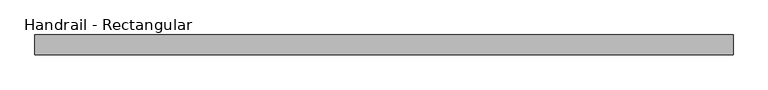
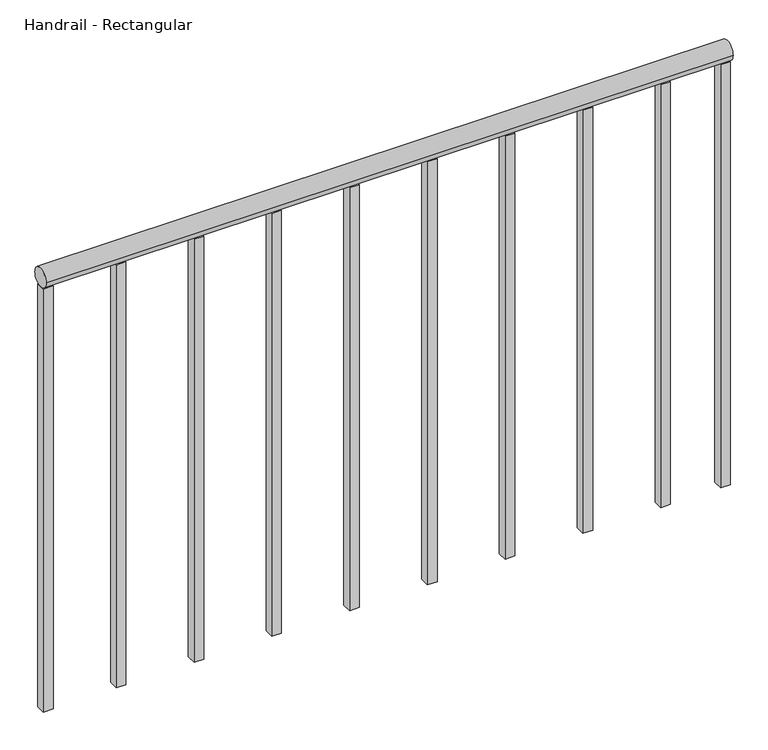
"""IFC4 building model written with IfcOpenShell, lengths in millimetres: railing geometry, Handrail - Rectangular."""

from ifc_helpers import new_model, si_unit, point, frame, frame_2d, origin, place, context, project, spatial, polyline, circle_curve, trimmed, segment, composite_curve, outline, extrude, source, transform, mapped, element, save


def handrail_rectangular_a4098ada(model_context):
    return source(origin(), model_context, "Body", "SweptSolid", [
        extrude(outline(composite_curve([segment(trimmed(circle_curve(frame_2d((-35553.1683133, 3943.35)), 19.05), [point((-35572.2183133, 3943.35))], [point((-35534.1183133, 3943.35))], False, "CARTESIAN"), True, "CONTINUOUS"), segment(trimmed(circle_curve(frame_2d((-35553.1683133, 3943.35)), 19.05), [point((-35534.1183133, 3943.35))], [point((-35572.2183133, 3943.35))], False, "CARTESIAN"), True, "CONTINUOUS")], self_intersect=False)), frame((-5665.7589563, 0.0, 0.0), z_axis=(1.0, 0.0, 0.0), x_axis=(0.0, 1.0, 0.0)), (0.0, 0.0, 1.0), 1346.2),
        extrude(outline(polyline([(-4456.0839563, -35543.6433133), (-4437.0339563, -35543.6433133), (-4437.0339563, -35562.6933133), (-4456.0839563, -35562.6933133), (-4456.0839563, -35543.6433133)])), frame((0.0, 0.0, 3048.0), z_axis=(0.0, 0.0, 1.0), x_axis=(1.0, 0.0, 0.0)), (0.0, 0.0, 1.0), 876.3),
        extrude(outline(polyline([(-4608.4839563, -35543.6433133), (-4589.4339563, -35543.6433133), (-4589.4339563, -35562.6933133), (-4608.4839563, -35562.6933133), (-4608.4839563, -35543.6433133)])), frame((0.0, 0.0, 3048.0), z_axis=(0.0, 0.0, 1.0), x_axis=(1.0, 0.0, 0.0)), (0.0, 0.0, 1.0), 876.3),
        extrude(outline(polyline([(-4760.8839563, -35543.6433133), (-4741.8339563, -35543.6433133), (-4741.8339563, -35562.6933133), (-4760.8839563, -35562.6933133), (-4760.8839563, -35543.6433133)])), frame((0.0, 0.0, 3048.0), z_axis=(0.0, 0.0, 1.0), x_axis=(1.0, 0.0, 0.0)), (0.0, 0.0, 1.0), 876.3),
        extrude(outline(polyline([(-4913.2839563, -35543.6433133), (-4894.2339563, -35543.6433133), (-4894.2339563, -35562.6933133), (-4913.2839563, -35562.6933133), (-4913.2839563, -35543.6433133)])), frame((0.0, 0.0, 3048.0), z_axis=(0.0, 0.0, 1.0), x_axis=(1.0, 0.0, 0.0)), (0.0, 0.0, 1.0), 876.3),
        extrude(outline(polyline([(-5065.6839563, -35543.6433133), (-5046.6339563, -35543.6433133), (-5046.6339563, -35562.6933133), (-5065.6839563, -35562.6933133), (-5065.6839563, -35543.6433133)])), frame((0.0, 0.0, 3048.0), z_axis=(0.0, 0.0, 1.0), x_axis=(1.0, 0.0, 0.0)), (0.0, 0.0, 1.0), 876.3),
        extrude(outline(polyline([(-5218.0839563, -35543.6433133), (-5199.0339563, -35543.6433133), (-5199.0339563, -35562.6933133), (-5218.0839563, -35562.6933133), (-5218.0839563, -35543.6433133)])), frame((0.0, 0.0, 3048.0), z_axis=(0.0, 0.0, 1.0), x_axis=(1.0, 0.0, 0.0)), (0.0, 0.0, 1.0), 876.3),
        extrude(outline(polyline([(-5370.4839563, -35543.6433133), (-5351.4339563, -35543.6433133), (-5351.4339563, -35562.6933133), (-5370.4839563, -35562.6933133), (-5370.4839563, -35543.6433133)])), frame((0.0, 0.0, 3048.0), z_axis=(0.0, 0.0, 1.0), x_axis=(1.0, 0.0, 0.0)), (0.0, 0.0, 1.0), 876.3),
        extrude(outline(polyline([(-5522.8839563, -35543.6433133), (-5503.8339563, -35543.6433133), (-5503.8339563, -35562.6933133), (-5522.8839563, -35562.6933133), (-5522.8839563, -35543.6433133)])), frame((0.0, 0.0, 3048.0), z_axis=(0.0, 0.0, 1.0), x_axis=(1.0, 0.0, 0.0)), (0.0, 0.0, 1.0), 876.3),
        extrude(outline(polyline([(-4338.6089563, -35543.6433133), (-4319.5589563, -35543.6433133), (-4319.5589563, -35562.6933133), (-4338.6089563, -35562.6933133), (-4338.6089563, -35543.6433133)])), frame((0.0, 0.0, 3048.0), z_axis=(0.0, 0.0, 1.0), x_axis=(1.0, 0.0, 0.0)), (0.0, 0.0, 1.0), 876.3),
        extrude(outline(polyline([(-5665.7589563, -35543.6433133), (-5646.7089563, -35543.6433133), (-5646.7089563, -35562.6933133), (-5665.7589563, -35562.6933133), (-5665.7589563, -35543.6433133)])), frame((0.0, 0.0, 3048.0), z_axis=(0.0, 0.0, 1.0), x_axis=(1.0, 0.0, 0.0)), (0.0, 0.0, 1.0), 876.3),
    ])


if __name__ == "__main__":
    model = new_model("IFC4")
    model_context = context("Model", 3, world=origin())
    ifc_project = project(units=[si_unit("LENGTHUNIT", "METRE", prefix="MILLI")], contexts=[model_context])
    site = spatial("IfcSite", under=ifc_project)
    building = spatial("IfcBuilding", under=site)
    placement = place(None, origin())
    handrail_rectangular_shape = handrail_rectangular_a4098ada(model_context)
    element("IfcRailing", 1, ObjectType="Handrail - Rectangular", at=placement, inside=building, context=model_context, shape_type="MappedRepresentation", body=[
        mapped(handrail_rectangular_shape, transform((0.0, 0.0, 0.0), x_axis=(1.0, 0.0, 0.0), y_axis=(0.0, 1.0, 0.0), z_axis=(0.0, 0.0, 1.0))),
    ])
    save(model, "model.ifc")
